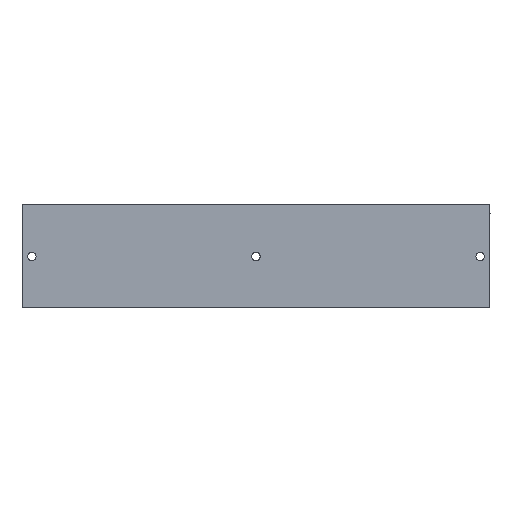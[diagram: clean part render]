
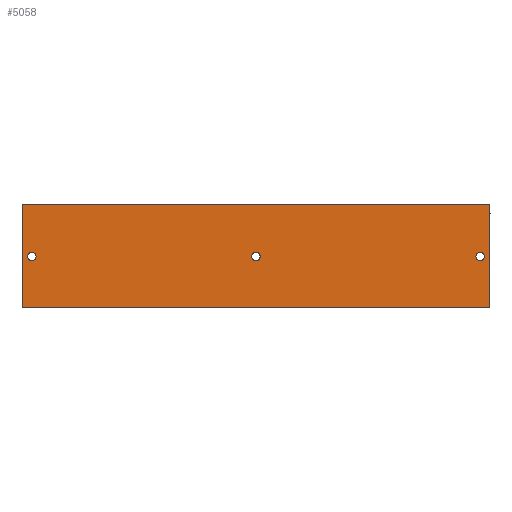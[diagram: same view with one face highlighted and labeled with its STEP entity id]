
A CAD part, front view. The second image highlights one B-rep face of the part: STEP entity #5058.
In plain terms, the highlighted planar face has unit normal (0, -1, 0).
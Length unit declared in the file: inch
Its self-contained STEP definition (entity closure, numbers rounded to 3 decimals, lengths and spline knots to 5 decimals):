
#80 = CARTESIAN_POINT ( 'NONE',  ( 18., 0., 0. ) ) ;
#241 = CARTESIAN_POINT ( 'NONE',  ( 8.995, 0., -2.184 ) ) ;
#1731 = CARTESIAN_POINT ( 'NONE',  ( 18., 0., -4. ) ) ;
#1886 = CARTESIAN_POINT ( 'NONE',  ( 8.995, 0., -2.02 ) ) ;
#1969 = CIRCLE ( 'NONE', #13054, 0.164 ) ;
#2730 = CARTESIAN_POINT ( 'NONE',  ( 17.625, 0., -2.02 ) ) ;
#3459 = EDGE_LOOP ( 'NONE', ( #20295, #31557 ) ) ;
#3478 = FACE_BOUND ( 'NONE', #3859, .T. ) ;
#3588 = AXIS2_PLACEMENT_3D ( 'NONE', #1886, #19518, #4543 ) ;
#3859 = EDGE_LOOP ( 'NONE', ( #11057, #28807 ) ) ;
#4290 = AXIS2_PLACEMENT_3D ( 'NONE', #25195, #22051, #21954 ) ;
#4543 = DIRECTION ( 'NONE',  ( 0., 0., 1. ) ) ;
#4780 = EDGE_CURVE ( 'NONE', #11307, #9752, #6421, .T. ) ;
#5058 = ADVANCED_FACE ( 'NONE', ( #10355, #3478, #5139, #22660 ), #22375, .F. ) ;
#5139 = FACE_BOUND ( 'NONE', #3459, .T. ) ;
#5401 = DIRECTION ( 'NONE',  ( 0., 0., 1. ) ) ;
#6041 = EDGE_CURVE ( 'NONE', #14886, #16558, #19493, .T. ) ;
#6195 = DIRECTION ( 'NONE',  ( 0., 1., 0. ) ) ;
#6421 = LINE ( 'NONE', #28617, #25401 ) ;
#6762 = EDGE_CURVE ( 'NONE', #29856, #22039, #17520, .T. ) ;
#8273 = CARTESIAN_POINT ( 'NONE',  ( 8.995, 0., -1.856 ) ) ;
#9752 = VERTEX_POINT ( 'NONE', #18136 ) ;
#10355 = FACE_BOUND ( 'NONE', #20330, .T. ) ;
#11057 = ORIENTED_EDGE ( 'NONE', *, *, #32136, .T. ) ;
#11307 = VERTEX_POINT ( 'NONE', #80 ) ;
#11689 = VECTOR ( 'NONE', #19361, 39.37008 ) ;
#11760 = DIRECTION ( 'NONE',  ( 0., 1., 0. ) ) ;
#12322 = CARTESIAN_POINT ( 'NONE',  ( 0.375, 0., -1.856 ) ) ;
#12590 = EDGE_CURVE ( 'NONE', #24932, #26429, #14369, .T. ) ;
#12952 = LINE ( 'NONE', #17654, #31136 ) ;
#13054 = AXIS2_PLACEMENT_3D ( 'NONE', #26500, #11760, #29005 ) ;
#13311 = CARTESIAN_POINT ( 'NONE',  ( 17.625, 0., -2.02 ) ) ;
#13426 = ORIENTED_EDGE ( 'NONE', *, *, #22770, .F. ) ;
#14369 = CIRCLE ( 'NONE', #3588, 0.164 ) ;
#14387 = CIRCLE ( 'NONE', #31214, 0.164 ) ;
#14513 = LINE ( 'NONE', #28515, #27630 ) ;
#14520 = AXIS2_PLACEMENT_3D ( 'NONE', #2730, #20333, #5401 ) ;
#14803 = CARTESIAN_POINT ( 'NONE',  ( 8.995, 0., -2.02 ) ) ;
#14886 = VERTEX_POINT ( 'NONE', #25345 ) ;
#15189 = AXIS2_PLACEMENT_3D ( 'NONE', #14803, #32089, #17267 ) ;
#15329 = ORIENTED_EDGE ( 'NONE', *, *, #26121, .F. ) ;
#15778 = DIRECTION ( 'NONE',  ( 0., 0., 1. ) ) ;
#15913 = AXIS2_PLACEMENT_3D ( 'NONE', #21055, #6195, #23517 ) ;
#15991 = CIRCLE ( 'NONE', #15189, 0.164 ) ;
#16558 = VERTEX_POINT ( 'NONE', #12322 ) ;
#17267 = DIRECTION ( 'NONE',  ( 0., 0., 1. ) ) ;
#17520 = CIRCLE ( 'NONE', #14520, 0.164 ) ;
#17654 = CARTESIAN_POINT ( 'NONE',  ( 0., 0., 0. ) ) ;
#18136 = CARTESIAN_POINT ( 'NONE',  ( 0., 0., 0. ) ) ;
#18656 = VERTEX_POINT ( 'NONE', #26073 ) ;
#18717 = ORIENTED_EDGE ( 'NONE', *, *, #29247, .T. ) ;
#19361 = DIRECTION ( 'NONE',  ( -1., 0., 0. ) ) ;
#19493 = CIRCLE ( 'NONE', #15913, 0.164 ) ;
#19518 = DIRECTION ( 'NONE',  ( 0., 1., 0. ) ) ;
#20077 = CARTESIAN_POINT ( 'NONE',  ( 17.625, 0., -1.856 ) ) ;
#20132 = DIRECTION ( 'NONE',  ( 0., 0., -1. ) ) ;
#20295 = ORIENTED_EDGE ( 'NONE', *, *, #31493, .T. ) ;
#20330 = EDGE_LOOP ( 'NONE', ( #18717, #26079 ) ) ;
#20333 = DIRECTION ( 'NONE',  ( 0., 1., 0. ) ) ;
#20691 = CARTESIAN_POINT ( 'NONE',  ( 17.625, 0., -2.184 ) ) ;
#21055 = CARTESIAN_POINT ( 'NONE',  ( 0.375, 0., -2.02 ) ) ;
#21873 = VERTEX_POINT ( 'NONE', #29401 ) ;
#21954 = DIRECTION ( 'NONE',  ( 0., 0., 1. ) ) ;
#22039 = VERTEX_POINT ( 'NONE', #20077 ) ;
#22051 = DIRECTION ( 'NONE',  ( 0., 1., 0. ) ) ;
#22375 = PLANE ( 'NONE',  #4290 ) ;
#22660 = FACE_OUTER_BOUND ( 'NONE', #29600, .T. ) ;
#22770 = EDGE_CURVE ( 'NONE', #11307, #18656, #14513, .T. ) ;
#23013 = ORIENTED_EDGE ( 'NONE', *, *, #28167, .T. ) ;
#23517 = DIRECTION ( 'NONE',  ( 0., 0., 1. ) ) ;
#24932 = VERTEX_POINT ( 'NONE', #241 ) ;
#25195 = CARTESIAN_POINT ( 'NONE',  ( 18., 0., 0. ) ) ;
#25345 = CARTESIAN_POINT ( 'NONE',  ( 0.375, 0., -2.184 ) ) ;
#25401 = VECTOR ( 'NONE', #32216, 39.37008 ) ;
#26073 = CARTESIAN_POINT ( 'NONE',  ( 18., 0., -4. ) ) ;
#26079 = ORIENTED_EDGE ( 'NONE', *, *, #12590, .T. ) ;
#26118 = DIRECTION ( 'NONE',  ( 0., 0., -1. ) ) ;
#26121 = EDGE_CURVE ( 'NONE', #18656, #21873, #30599, .T. ) ;
#26429 = VERTEX_POINT ( 'NONE', #8273 ) ;
#26500 = CARTESIAN_POINT ( 'NONE',  ( 0.375, 0., -2.02 ) ) ;
#27630 = VECTOR ( 'NONE', #26118, 39.37008 ) ;
#28167 = EDGE_CURVE ( 'NONE', #9752, #21873, #12952, .T. ) ;
#28515 = CARTESIAN_POINT ( 'NONE',  ( 18., 0., 0. ) ) ;
#28617 = CARTESIAN_POINT ( 'NONE',  ( 18., 0., 0. ) ) ;
#28807 = ORIENTED_EDGE ( 'NONE', *, *, #6041, .T. ) ;
#29005 = DIRECTION ( 'NONE',  ( 0., 0., 1. ) ) ;
#29247 = EDGE_CURVE ( 'NONE', #26429, #24932, #15991, .T. ) ;
#29272 = ORIENTED_EDGE ( 'NONE', *, *, #4780, .T. ) ;
#29401 = CARTESIAN_POINT ( 'NONE',  ( 0., 0., -4. ) ) ;
#29600 = EDGE_LOOP ( 'NONE', ( #23013, #15329, #13426, #29272 ) ) ;
#29856 = VERTEX_POINT ( 'NONE', #20691 ) ;
#30571 = DIRECTION ( 'NONE',  ( 0., 1., 0. ) ) ;
#30599 = LINE ( 'NONE', #1731, #11689 ) ;
#31136 = VECTOR ( 'NONE', #20132, 39.37008 ) ;
#31214 = AXIS2_PLACEMENT_3D ( 'NONE', #13311, #30571, #15778 ) ;
#31493 = EDGE_CURVE ( 'NONE', #22039, #29856, #14387, .T. ) ;
#31557 = ORIENTED_EDGE ( 'NONE', *, *, #6762, .T. ) ;
#32089 = DIRECTION ( 'NONE',  ( 0., 1., 0. ) ) ;
#32136 = EDGE_CURVE ( 'NONE', #16558, #14886, #1969, .T. ) ;
#32216 = DIRECTION ( 'NONE',  ( -1., 0., 0. ) ) ;
